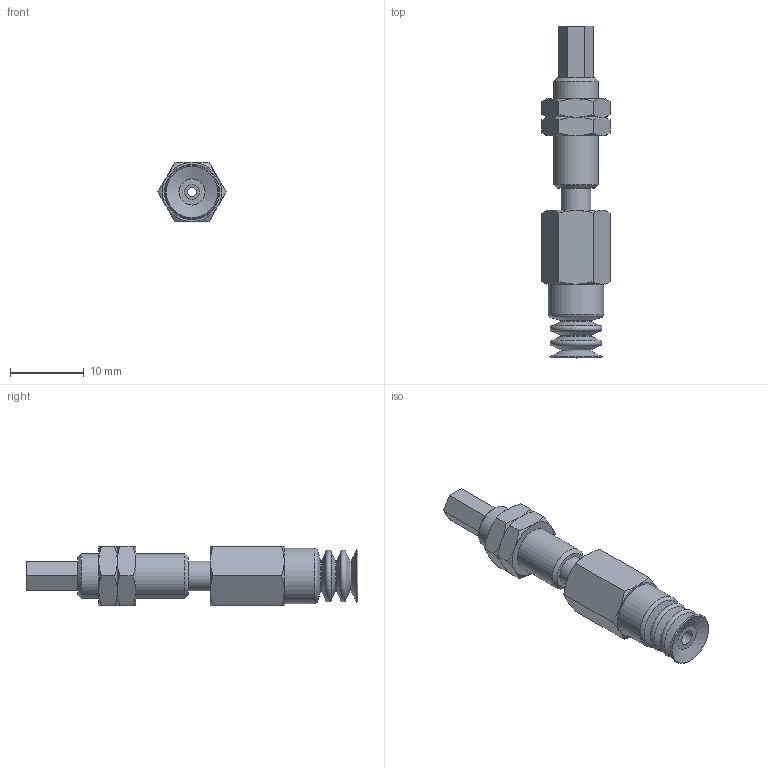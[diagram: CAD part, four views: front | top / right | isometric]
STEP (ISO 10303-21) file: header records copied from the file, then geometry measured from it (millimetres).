
FILE_DESCRIPTION(('STEP AP203'),'1');
FILE_NAME('.stp','2025-08-27T01:57:29',(' '),(' '),'Spatial InterOp 3D',' ',' ');
FILE_SCHEMA(('CONFIG_CONTROL_DESIGN'));
Length unit declared in the file: millimetre
Products named in the file (6): BNABPCTS-7-3-※; ADAPTER; NAPCTS-7-3-MBODY; Nut napc_s-7-3; NAPCTS-7-3-FBODY; BPCG-7-※
Assembly tree (6 placements, depth 2):
  BNABPCTS-7-3-※
    ADAPTER
    NAPCTS-7-3-MBODY
    Nut napc_s-7-3  x2
    NAPCTS-7-3-FBODY
    BPCG-7-※
Bounding box: 9.24 x 45 x 8 mm (x, y, z)
Volume: 1528 mm3; surface area: 2304.2 mm2
Topology: 6 solids, 6 shells, 124 faces, 253 edges, 146 vertices
Faces by surface type: cone 52, plane 47, cylinder 14, torus 11
Full cylindrical faces by diameter (mm): 1.2 x2, 2 x1, 2.459 x1, 4 x4, 5.188 x2, 6 x3, 7.5 x1
Entity records: 2878 total; most frequent: CARTESIAN_POINT 654, DIRECTION 412, ORIENTED_EDGE 330, AXIS2_PLACEMENT_3D 188, EDGE_CURVE 165, EDGE_LOOP 153, FACE_OUTER_BOUND 125, VERTEX_POINT 116
